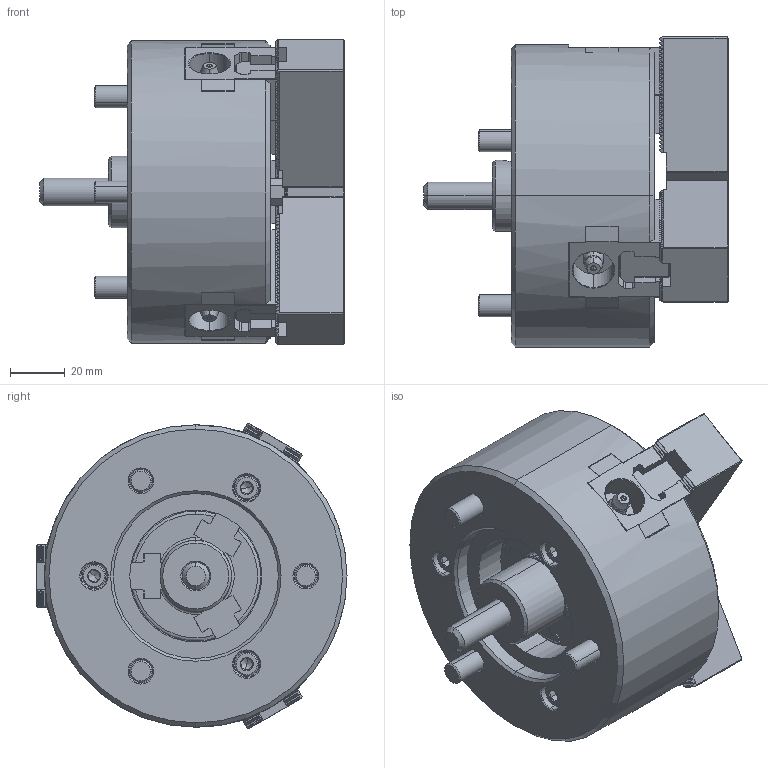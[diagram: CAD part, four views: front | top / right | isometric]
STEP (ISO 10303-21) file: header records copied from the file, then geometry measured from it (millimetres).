
FILE_DESCRIPTION (( 'STEP AP214' ), '1' );
FILE_NAME ('DT1_N-04_OUTSIDE_VIEW_HUL.STEP', '2026-03-13T01:34:05', ( '' ), ( '' ), 'SwSTEP 2.0', 'SolidWorks 2022', '' );
FILE_SCHEMA (( 'AUTOMOTIVE_DESIGN' ));
Length unit declared in the file: millimetre
Products named in the file (10): DT1_N-04_DN^DT1_N-04; DT1_N-04_BASE^DT1_N-04; DT1_N-04_M8x22^DT1_N-04; DT1_N-04_SOFTJAW^DT1_N-04; DT1_N-04_TNUT^DT1_N-04; DT1_N-04_M3x8^DT1_N-04; DT1_N-04_DRAWSCREW^DT1_N-04; DT1_N-04_OUTSIDE_VIEW_HUL; DT1_N-04_COVER^DT1_N-04; DT1_N-04_M8x55^DT1_N-04
Assembly tree (22 placements, depth 2):
  DT1_N-04_OUTSIDE_VIEW_HUL
    DT1_N-04_SOFTJAW^DT1_N-04  x3
    DT1_N-04_TNUT^DT1_N-04  x3
    DT1_N-04_COVER^DT1_N-04
    DT1_N-04_DRAWSCREW^DT1_N-04
    DT1_N-04_DN^DT1_N-04
    DT1_N-04_BASE^DT1_N-04
    DT1_N-04_M8x22^DT1_N-04  x6
    DT1_N-04_M8x55^DT1_N-04  x3
    DT1_N-04_M3x8^DT1_N-04  x3
Bounding box: 110.75 x 112.75 x 111.13 mm (x, y, z)
Volume: 540366.8 mm3; surface area: 113827.8 mm2
Topology: 22 solids, 22 shells, 3332 faces, 9002 edges, 5766 vertices
Faces by surface type: plane 2207, cylinder 715, cone 258, bspline 90, torus 56, sphere 6
Entity records: 76352 total; most frequent: CARTESIAN_POINT 19240, ORIENTED_EDGE 12544, DIRECTION 10640, EDGE_CURVE 6272, VECTOR 4700, LINE 4700, VERTEX_POINT 4069, AXIS2_PLACEMENT_3D 2970
